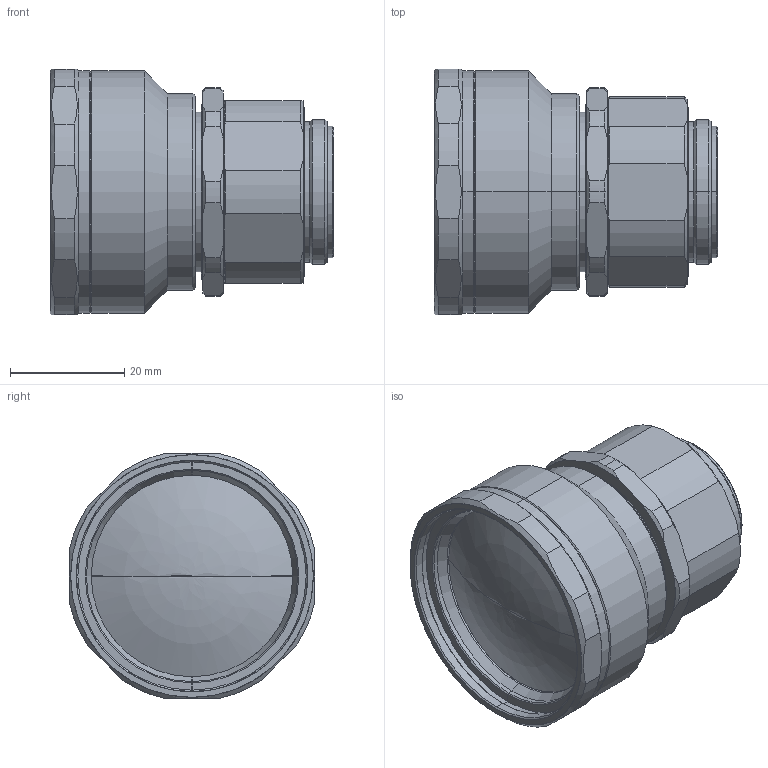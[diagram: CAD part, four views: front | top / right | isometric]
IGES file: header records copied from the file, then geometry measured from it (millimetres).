
Start section: SolidWorks IGES file using analytic representation for surfaces
Global section: file name: C:\Users\sugita_vst\Desktop\AutoCAD図面DATA\・MC35H1,MC50H1(D-1800211,212)   (3Dモデル) ▲\VS-MC50H1.IGS; native system: SolidWorks 2018; preprocessor: SolidWorks 2018; author: sugita_vst; date: 181227.112042; units: millimetre
Bounding box: 49.7 x 43 x 43 mm (x, y, z)
Surface area: 13189.5 mm2 (no closed solid volume)
Topology: 0 solids, 0 shells, 173 faces, 2022 edges, 2020 vertices
Faces by surface type: revolution 137, bspline 36
